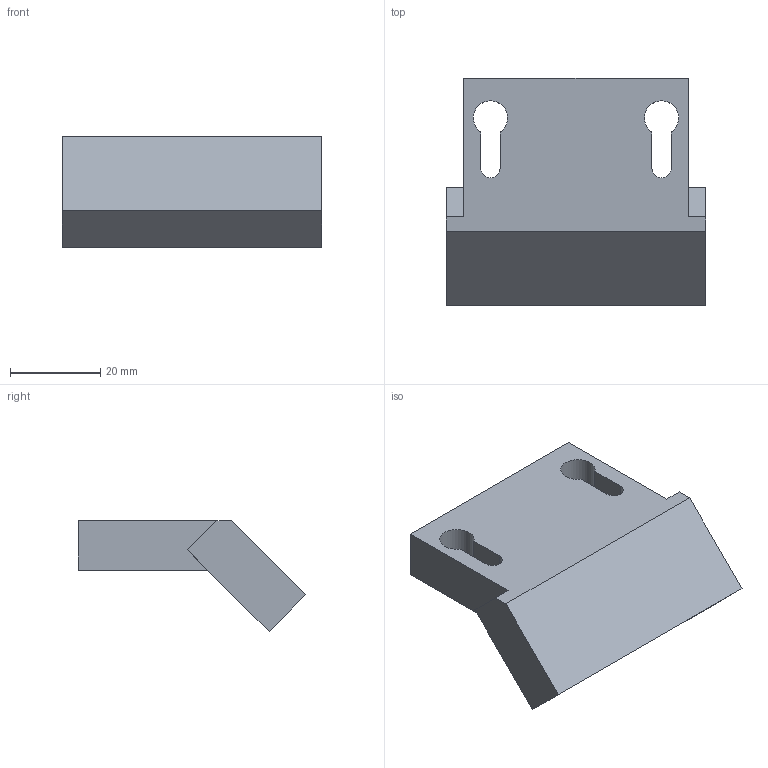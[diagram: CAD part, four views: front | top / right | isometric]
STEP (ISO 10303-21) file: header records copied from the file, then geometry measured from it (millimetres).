
FILE_DESCRIPTION( ( 'STEP AP214' ), '1' );
FILE_NAME( 'D:/Yug/2020/QC/Final Delta/Correction_By_Yug/Cabiner_Interior/9155200.stp', '2020-12-31T06:43:48', ( '' ), ( '' ), ' ', 'PARTsolutions', ' ' );
FILE_SCHEMA( ( 'AUTOMOTIVE_DESIGN { 1 0 10303 214 1 1 1 1 }' ) );
Length unit declared in the file: millimetre
Products named in the file (1): _9155200
Bounding box: 57.7 x 50.5 x 24.6 mm (x, y, z)
Volume: 29831.7 mm3; surface area: 8712.8 mm2
Topology: 1 solids, 1 shells, 20 faces, 54 edges, 36 vertices
Faces by surface type: plane 16, cylinder 4
Entity records: 810 total; most frequent: CARTESIAN_POINT 111, ORIENTED_EDGE 108, DIRECTION 104, EDGE_CURVE 54, LINE 46, VECTOR 46, VERTEX_POINT 36, AXIS2_PLACEMENT_3D 29
